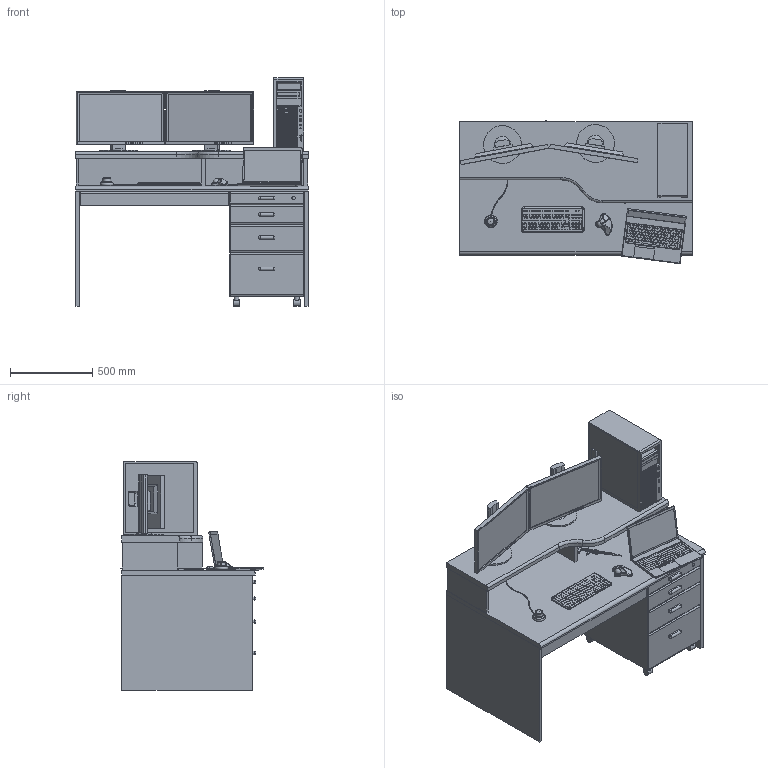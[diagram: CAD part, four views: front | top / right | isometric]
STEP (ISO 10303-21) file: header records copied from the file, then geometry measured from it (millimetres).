
FILE_DESCRIPTION(/* description */ (''),/* implementation_level */ '2;1');
FILE_NAME(/* name */ 'C:\Users\Fujimoto-s\OneDrive\Inventor\WorkSpace\\X2\305D306E4ED6\X0\\ホームページ用\\X2\30C030A630F330ED30FC30C97D206750\X0\\ＰＣ関係\\X2\30A230C330D730ED30FC30C97528\X0\\ＰＣ\作業机.stp',/* time_stamp */ '2024-08-13T16:54:38+09:00',/* author */ ('Fujimoto-s'),/* organization */ (''),/* preprocessor_version */ 'ST-DEVELOPER v15.2',/* originating_system */ 'Autodesk Inventor 2014',/* authorisation */ '');
FILE_SCHEMA (('AUTOMOTIVE_DESIGN { 1 0 10303 214 3 1 1 }'));
Products named in the file (10): ＰＣ机; バーニアノギス; モニターInventor; モニターAutoCAD; キーボード; Ｚ４２０; ３Ｄマウス; ｍ５７０ｔ; ノートPC; 作業机
Bounding box: 1415 x 870.99 x 1388 mm (x, y, z)
Volume: 332154041.7 mm3; surface area: 12214431.6 mm2
Topology: 14 solids, 14 shells, 2914 faces, 7459 edges, 4921 vertices
Faces by surface type: plane 2192, bspline 537, cylinder 149, torus 18, sphere 17, cone 1
Full cylindrical faces by diameter (mm): 3 x2, 6.5 x1, 7 x2, 18 x1, 21 x1, 25 x1, 30 x4, 38 x1, 40 x4, 50 x1, 67 x1, 230 x2
Entity records: 92398 total; most frequent: CARTESIAN_POINT 23908, ORIENTED_EDGE 14780, DIRECTION 11495, EDGE_CURVE 7390, LINE 5929, VECTOR 5929, VERTEX_POINT 4904, EDGE_LOOP 3318
